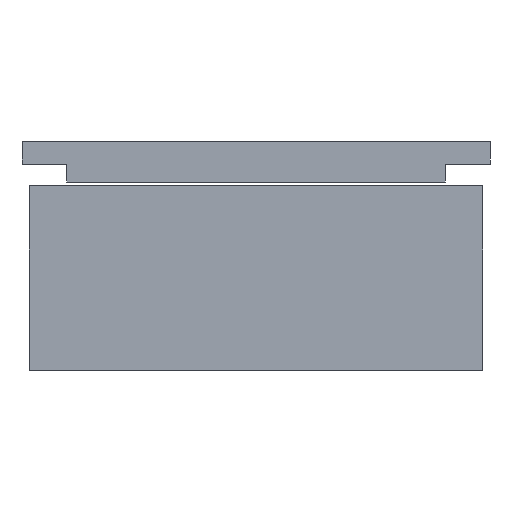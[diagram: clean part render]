
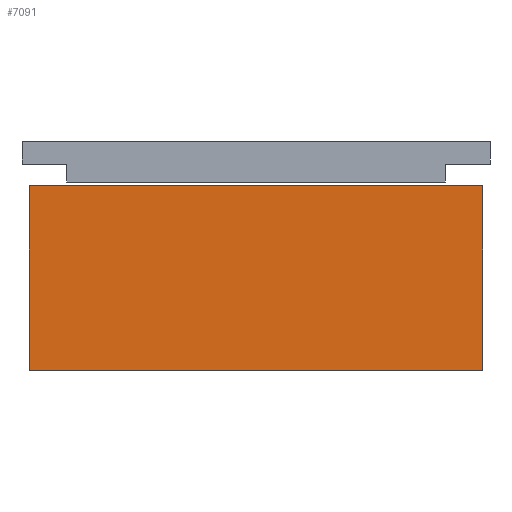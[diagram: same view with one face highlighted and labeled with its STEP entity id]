
A CAD part, left-side view. The second image highlights one B-rep face of the part: STEP entity #7091.
In plain terms, the highlighted planar face has unit normal (-1, 0, 0).
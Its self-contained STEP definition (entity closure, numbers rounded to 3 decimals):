
#192 = EDGE_CURVE ( 'NONE', #6834, #9811, #7180, .T. ) ;
#292 = CARTESIAN_POINT ( 'NONE',  ( -182., 60.5, 49.3 ) ) ;
#830 = VECTOR ( 'NONE', #7927, 1000. ) ;
#980 = CARTESIAN_POINT ( 'NONE',  ( -182., 60.5, 49.3 ) ) ;
#1054 = ORIENTED_EDGE ( 'NONE', *, *, #192, .T. ) ;
#1514 = DIRECTION ( 'NONE',  ( 0., 0., -1. ) ) ;
#1699 = EDGE_LOOP ( 'NONE', ( #1054, #3850, #9121, #2605 ) ) ;
#2221 = DIRECTION ( 'NONE',  ( 0., 0., -1. ) ) ;
#2554 = VECTOR ( 'NONE', #6274, 1000. ) ;
#2605 = ORIENTED_EDGE ( 'NONE', *, *, #9634, .T. ) ;
#2683 = VERTEX_POINT ( 'NONE', #980 ) ;
#2827 = FACE_OUTER_BOUND ( 'NONE', #1699, .T. ) ;
#3552 = AXIS2_PLACEMENT_3D ( 'NONE', #6765, #9966, #2221 ) ;
#3850 = ORIENTED_EDGE ( 'NONE', *, *, #6605, .F. ) ;
#4032 = EDGE_CURVE ( 'NONE', #2683, #7669, #9668, .T. ) ;
#5107 = DIRECTION ( 'NONE',  ( 0., -1., 0. ) ) ;
#5205 = CARTESIAN_POINT ( 'NONE',  ( -182., -60.5, 49.3 ) ) ;
#5298 = LINE ( 'NONE', #292, #830 ) ;
#5808 = CARTESIAN_POINT ( 'NONE',  ( -182., -60.5, 0. ) ) ;
#6017 = PLANE ( 'NONE',  #3552 ) ;
#6274 = DIRECTION ( 'NONE',  ( 0., -1., 0. ) ) ;
#6605 = EDGE_CURVE ( 'NONE', #7669, #9811, #6610, .T. ) ;
#6610 = LINE ( 'NONE', #9309, #7949 ) ;
#6765 = CARTESIAN_POINT ( 'NONE',  ( -182., -60.5, 49.3 ) ) ;
#6834 = VERTEX_POINT ( 'NONE', #7325 ) ;
#7091 = ADVANCED_FACE ( 'NONE', ( #2827 ), #6017, .F. ) ;
#7180 = LINE ( 'NONE', #9340, #2554 ) ;
#7325 = CARTESIAN_POINT ( 'NONE',  ( -182., 60.5, 0. ) ) ;
#7464 = VECTOR ( 'NONE', #5107, 1000. ) ;
#7669 = VERTEX_POINT ( 'NONE', #9568 ) ;
#7927 = DIRECTION ( 'NONE',  ( 0., 0., -1. ) ) ;
#7949 = VECTOR ( 'NONE', #1514, 1000. ) ;
#9121 = ORIENTED_EDGE ( 'NONE', *, *, #4032, .F. ) ;
#9309 = CARTESIAN_POINT ( 'NONE',  ( -182., -60.5, 49.3 ) ) ;
#9340 = CARTESIAN_POINT ( 'NONE',  ( -182., -60.5, 0. ) ) ;
#9568 = CARTESIAN_POINT ( 'NONE',  ( -182., -60.5, 49.3 ) ) ;
#9634 = EDGE_CURVE ( 'NONE', #2683, #6834, #5298, .T. ) ;
#9668 = LINE ( 'NONE', #5205, #7464 ) ;
#9811 = VERTEX_POINT ( 'NONE', #5808 ) ;
#9966 = DIRECTION ( 'NONE',  ( 1., 0., 0. ) ) ;
